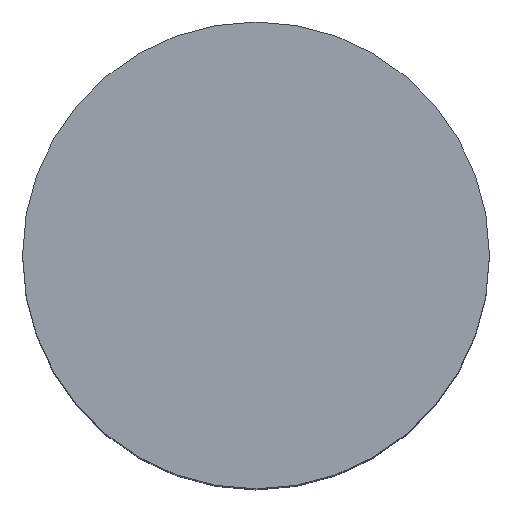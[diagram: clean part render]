
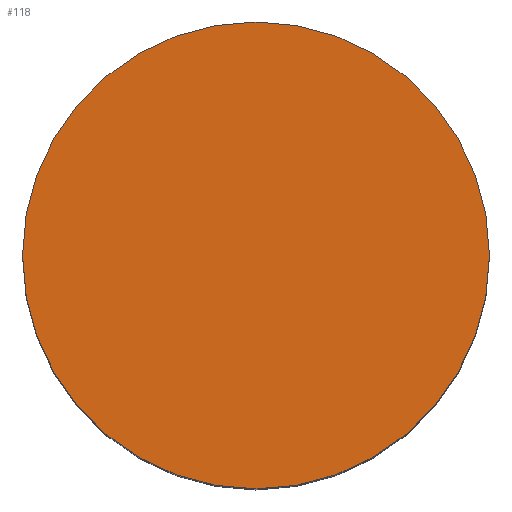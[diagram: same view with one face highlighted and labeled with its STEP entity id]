
A CAD part, top view. The second image highlights one B-rep face of the part: STEP entity #118.
In plain terms, the highlighted planar face has unit normal (0, 0, 1).
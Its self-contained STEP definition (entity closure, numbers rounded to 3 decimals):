
#118=ADVANCED_FACE('',(#128),#120,.T.);
#120=PLANE('',#215);
#128=FACE_OUTER_BOUND('',#136,.T.);
#136=EDGE_LOOP('',(#163,#164));
#163=ORIENTED_EDGE('',*,*,#186,.T.);
#164=ORIENTED_EDGE('',*,*,#184,.T.);
#171=VERTEX_POINT('',#281);
#172=VERTEX_POINT('',#283);
#184=EDGE_CURVE('',#172,#171,#195,.T.);
#186=EDGE_CURVE('',#171,#172,#196,.T.);
#195=CIRCLE('',#211,30.);
#196=CIRCLE('',#213,30.);
#211=AXIS2_PLACEMENT_3D('',#282,#247,#248);
#213=AXIS2_PLACEMENT_3D('',#286,#252,#253);
#215=AXIS2_PLACEMENT_3D('',#288,#256,#257);
#247=DIRECTION('',(0.,0.,1.));
#248=DIRECTION('',(0.,-1.,0.));
#252=DIRECTION('',(0.,0.,1.));
#253=DIRECTION('',(0.,1.,0.));
#256=DIRECTION('',(0.,0.,1.));
#257=DIRECTION('',(0.,1.,0.));
#281=CARTESIAN_POINT('',(-30.,0.,82.));
#282=CARTESIAN_POINT('',(0.,0.,82.));
#283=CARTESIAN_POINT('',(30.,0.,82.));
#286=CARTESIAN_POINT('',(0.,0.,82.));
#288=CARTESIAN_POINT('',(0.,0.,82.));
